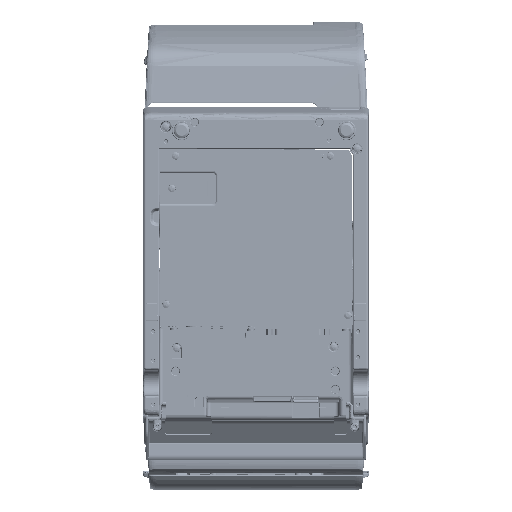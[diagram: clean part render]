
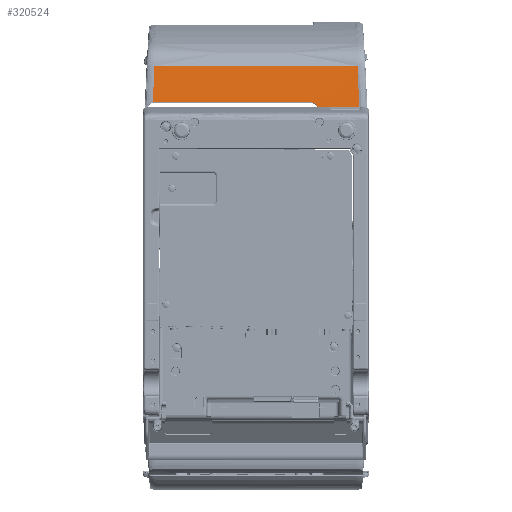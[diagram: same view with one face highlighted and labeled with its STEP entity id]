
A CAD part, front view. The second image highlights one B-rep face of the part: STEP entity #320524.
In plain terms, the highlighted cylindrical face has radius 850 mm (diameter 1700 mm), a partial arc.
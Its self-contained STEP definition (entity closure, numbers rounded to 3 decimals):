
#300703=DIRECTION('',(1.,0.,0.));
#300704=VECTOR('',#300703,34.667);
#300705=CARTESIAN_POINT('',(5.791,-53.475,
80.662));
#300706=LINE('',#300705,#300704);
#300707=CARTESIAN_POINT('',(5.791,-53.475,
80.662));
#300708=CARTESIAN_POINT('',(5.753,-53.287,
82.837));
#300709=CARTESIAN_POINT('',(5.678,-52.895,
87.183));
#300710=CARTESIAN_POINT('',(5.564,-52.256,
93.698));
#300711=CARTESIAN_POINT('',(5.488,-51.797,
98.038));
#300712=CARTESIAN_POINT('',(5.45,-51.559,
100.207));
#300714=CARTESIAN_POINT('',(5.45,-51.559,
100.207));
#300715=CARTESIAN_POINT('',(5.449,-51.55,
100.293));
#300716=CARTESIAN_POINT('',(5.442,-51.531,
100.466));
#300717=CARTESIAN_POINT('',(5.419,-51.502,
100.725));
#300718=CARTESIAN_POINT('',(5.384,-51.474,
100.982));
#300719=CARTESIAN_POINT('',(5.336,-51.445,
101.238));
#300720=CARTESIAN_POINT('',(5.277,-51.417,
101.491));
#300721=CARTESIAN_POINT('',(5.206,-51.39,
101.741));
#300722=CARTESIAN_POINT('',(5.123,-51.362,
101.987));
#300723=CARTESIAN_POINT('',(5.029,-51.335,
102.229));
#300724=CARTESIAN_POINT('',(4.923,-51.308,
102.467));
#300725=CARTESIAN_POINT('',(4.806,-51.282,
102.699));
#300726=CARTESIAN_POINT('',(4.679,-51.257,
102.925));
#300727=CARTESIAN_POINT('',(4.541,-51.232,
103.144));
#300728=CARTESIAN_POINT('',(4.393,-51.208,
103.357));
#300729=CARTESIAN_POINT('',(4.235,-51.184,
103.563));
#300730=CARTESIAN_POINT('',(4.068,-51.162,
103.761));
#300731=CARTESIAN_POINT('',(3.891,-51.14,
103.951));
#300732=CARTESIAN_POINT('',(3.706,-51.119,
104.132));
#300733=CARTESIAN_POINT('',(3.513,-51.1,
104.304));
#300734=CARTESIAN_POINT('',(3.312,-51.081,
104.467));
#300735=CARTESIAN_POINT('',(3.103,-51.063,
104.62));
#300736=CARTESIAN_POINT('',(2.888,-51.047,
104.763));
#300737=CARTESIAN_POINT('',(2.666,-51.032,
104.896));
#300738=CARTESIAN_POINT('',(2.438,-51.018,
105.018));
#300739=CARTESIAN_POINT('',(2.205,-51.005,
105.129));
#300740=CARTESIAN_POINT('',(1.967,-50.993,
105.23));
#300741=CARTESIAN_POINT('',(1.724,-50.983,
105.319));
#300742=CARTESIAN_POINT('',(1.478,-50.974,
105.396));
#300743=CARTESIAN_POINT('',(1.229,-50.966,
105.462));
#300744=CARTESIAN_POINT('',(0.976,-50.96,
105.516));
#300745=CARTESIAN_POINT('',(0.721,-50.955,
105.558));
#300746=CARTESIAN_POINT('',(0.465,-50.952,
105.588));
#300747=CARTESIAN_POINT('',(0.208,-50.949,
105.606));
#300748=CARTESIAN_POINT('',(0.037,-50.949,
105.61));
#300749=CARTESIAN_POINT('',(-0.049,-50.949,
105.61));
#300751=DIRECTION('',(-1.,0.,0.));
#300752=VECTOR('',#300751,129.068);
#300753=CARTESIAN_POINT('',(-0.049,-50.949,
105.61));
#300754=LINE('',#300753,#300752);
#300755=CARTESIAN_POINT('',(-129.117,-50.949,
105.61));
#300756=CARTESIAN_POINT('',(-129.182,-50.949,
105.61));
#300757=CARTESIAN_POINT('',(-129.31,-50.949,
105.608));
#300758=CARTESIAN_POINT('',(-129.503,-50.95,
105.598));
#300759=CARTESIAN_POINT('',(-129.694,-50.952,
105.581));
#300760=CARTESIAN_POINT('',(-129.822,-50.954,
105.565));
#300761=CARTESIAN_POINT('',(-129.885,-50.955,
105.556));
#300763=DIRECTION('',(-1.,0.,0.));
#300764=VECTOR('',#300763,166.507);
#300765=CARTESIAN_POINT('',(38.053,-46.979,
135.229));
#300766=LINE('',#300765,#300764);
#303144=CARTESIAN_POINT('',(38.053,-46.979,
135.229));
#303145=CARTESIAN_POINT('',(38.193,-47.376,
132.614));
#303146=CARTESIAN_POINT('',(38.464,-48.147,
127.382));
#303147=CARTESIAN_POINT('',(38.852,-49.229,
119.524));
#303148=CARTESIAN_POINT('',(39.218,-50.237,
111.658));
#303149=CARTESIAN_POINT('',(39.565,-51.172,
103.783));
#303150=CARTESIAN_POINT('',(39.891,-52.033,
95.902));
#303151=CARTESIAN_POINT('',(40.189,-52.802,
88.195));
#303152=CARTESIAN_POINT('',(40.373,-53.263,
83.114));
#303153=CARTESIAN_POINT('',(40.459,-53.475,
80.662));
#303172=CARTESIAN_POINT('',(-128.453,-46.979,
135.229));
#303173=CARTESIAN_POINT('',(-128.593,-47.376,
132.614));
#303174=CARTESIAN_POINT('',(-128.864,-48.147,
127.382));
#303175=CARTESIAN_POINT('',(-129.252,-49.229,
119.524));
#303176=CARTESIAN_POINT('',(-129.591,-50.161,
112.248));
#303177=CARTESIAN_POINT('',(-129.797,-50.719,
107.59));
#303178=CARTESIAN_POINT('',(-129.885,-50.955,
105.556));
#315199=CARTESIAN_POINT('',(38.053,-46.979,
135.229));
#315200=CARTESIAN_POINT('',(-128.453,-46.979,
135.229));
#315201=VERTEX_POINT('',#315199);
#315202=VERTEX_POINT('',#315200);
#315393=VERTEX_POINT('',#303178);
#315401=CARTESIAN_POINT('',(5.791,-53.475,
80.662));
#315402=CARTESIAN_POINT('',(40.459,-53.475,
80.662));
#315403=VERTEX_POINT('',#315401);
#315404=VERTEX_POINT('',#315402);
#315768=VERTEX_POINT('',#300755);
#315771=CARTESIAN_POINT('',(-0.049,-50.949,
105.61));
#315772=VERTEX_POINT('',#315771);
#317078=VERTEX_POINT('',#300714);
#320501=CARTESIAN_POINT('',(-148.2,793.372,7.515));
#320502=DIRECTION('',(1.,0.,0.));
#320503=DIRECTION('',(0.,1.,-0.007));
#320504=AXIS2_PLACEMENT_3D('',#320501,#320502,#320503);
#320505=CYLINDRICAL_SURFACE('',#320504,850.);
#320507=ORIENTED_EDGE('',*,*,#320506,.F.);
#320509=ORIENTED_EDGE('',*,*,#320508,.T.);
#320511=ORIENTED_EDGE('',*,*,#320510,.T.);
#320513=ORIENTED_EDGE('',*,*,#320512,.T.);
#320515=ORIENTED_EDGE('',*,*,#320514,.T.);
#320517=ORIENTED_EDGE('',*,*,#320516,.F.);
#320519=ORIENTED_EDGE('',*,*,#320518,.F.);
#320521=ORIENTED_EDGE('',*,*,#320520,.T.);
#320522=EDGE_LOOP('',(#320507,#320509,#320511,#320513,#320515,#320517,#320519,
#320521));
#320523=FACE_OUTER_BOUND('',#320522,.F.);
#300713=B_SPLINE_CURVE_WITH_KNOTS('',3,(#300707,#300708,#300709,#300710,#300711,
#300712),.UNSPECIFIED.,.F.,.F.,(4,1,1,4),(0.,0.333,
0.667,1.),.UNSPECIFIED.);
#300750=B_SPLINE_CURVE_WITH_KNOTS('',3,(#300714,#300715,#300716,#300717,#300718,
#300719,#300720,#300721,#300722,#300723,#300724,#300725,#300726,#300727,#300728,
#300729,#300730,#300731,#300732,#300733,#300734,#300735,#300736,#300737,#300738,
#300739,#300740,#300741,#300742,#300743,#300744,#300745,#300746,#300747,#300748,
#300749),.UNSPECIFIED.,.F.,.F.,(4,1,1,1,1,1,1,1,1,1,1,1,1,1,1,1,1,1,1,1,1,1,1,1,
1,1,1,1,1,1,1,1,1,4),(0.,0.03,0.061,
0.091,0.121,0.152,0.182,
0.212,0.242,0.273,0.303,
0.333,0.364,0.394,0.424,
0.455,0.485,0.515,0.545,
0.576,0.606,0.636,0.667,
0.697,0.727,0.758,0.788,
0.818,0.848,0.879,0.909,
0.939,0.97,1.),.UNSPECIFIED.);
#300762=B_SPLINE_CURVE_WITH_KNOTS('',3,(#300755,#300756,#300757,#300758,#300759,
#300760,#300761),.UNSPECIFIED.,.F.,.F.,(4,1,1,1,4),(0.,0.25,0.5,0.75,
1.),.UNSPECIFIED.);
#303154=B_SPLINE_CURVE_WITH_KNOTS('',3,(#303144,#303145,#303146,#303147,#303148,
#303149,#303150,#303151,#303152,#303153),.UNSPECIFIED.,.F.,.F.,(4,1,1,1,1,1,1,
4),(0.,0.144,0.289,0.433,
0.577,0.721,0.866,1.),.UNSPECIFIED.);
#303179=B_SPLINE_CURVE_WITH_KNOTS('',3,(#303172,#303173,#303174,#303175,#303176,
#303177,#303178),.UNSPECIFIED.,.F.,.F.,(4,1,1,1,4),(0.,0.265,
0.53,0.795,1.),.UNSPECIFIED.);
#320506=EDGE_CURVE('',#315403,#315404,#300706,.T.);
#320508=EDGE_CURVE('',#315403,#317078,#300713,.T.);
#320510=EDGE_CURVE('',#317078,#315772,#300750,.T.);
#320512=EDGE_CURVE('',#315772,#315768,#300754,.T.);
#320514=EDGE_CURVE('',#315768,#315393,#300762,.T.);
#320516=EDGE_CURVE('',#315202,#315393,#303179,.T.);
#320518=EDGE_CURVE('',#315201,#315202,#300766,.T.);
#320520=EDGE_CURVE('',#315201,#315404,#303154,.T.);
#320524=ADVANCED_FACE('',(#320523),#320505,.T.);
